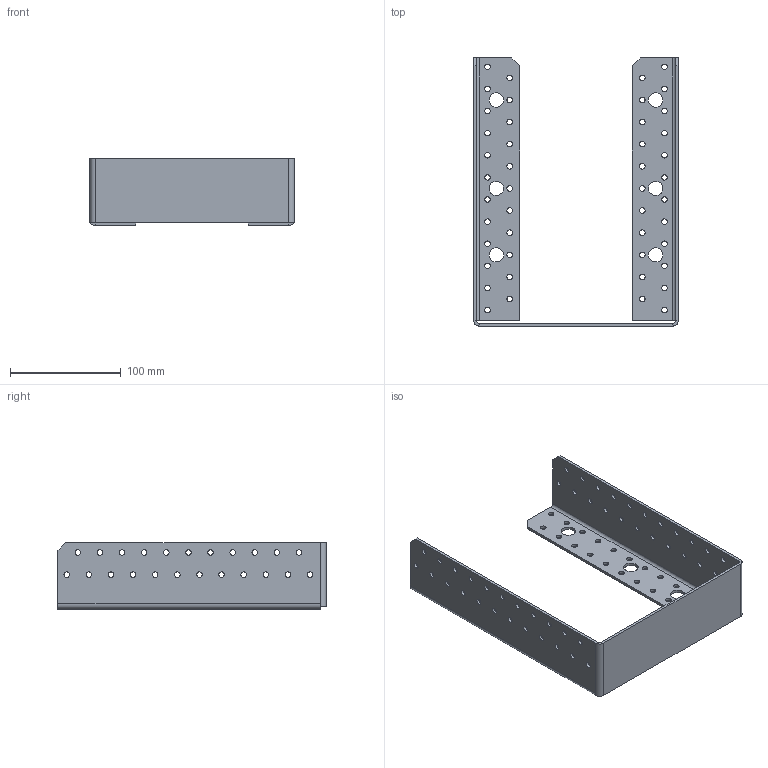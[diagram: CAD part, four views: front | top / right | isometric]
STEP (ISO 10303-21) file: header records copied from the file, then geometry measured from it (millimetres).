
FILE_DESCRIPTION (( 'STEP AP203' ), '1' );
FILE_NAME ('40523IKO.STEP', '2021-04-16T09:47:30', ( '' ), ( '' ), 'SwSTEP 2.0', 'SolidWorks 2013', '' );
FILE_SCHEMA (( 'CONFIG_CONTROL_DESIGN' ));
Length unit declared in the file: millimetre
Products named in the file (1): 40523IKO
Bounding box: 185 x 242.5 x 60.5 mm (x, y, z)
Volume: 136576.2 mm3; surface area: 117445.4 mm2
Topology: 1 solids, 1 shells, 240 faces, 684 edges, 446 vertices
Faces by surface type: cylinder 204, plane 36
Entity records: 8487 total; most frequent: DIRECTION 1576, CARTESIAN_POINT 1371, ORIENTED_EDGE 1368, EDGE_CURVE 684, AXIS2_PLACEMENT_3D 651, VERTEX_POINT 446, EDGE_LOOP 436, CIRCLE 410
